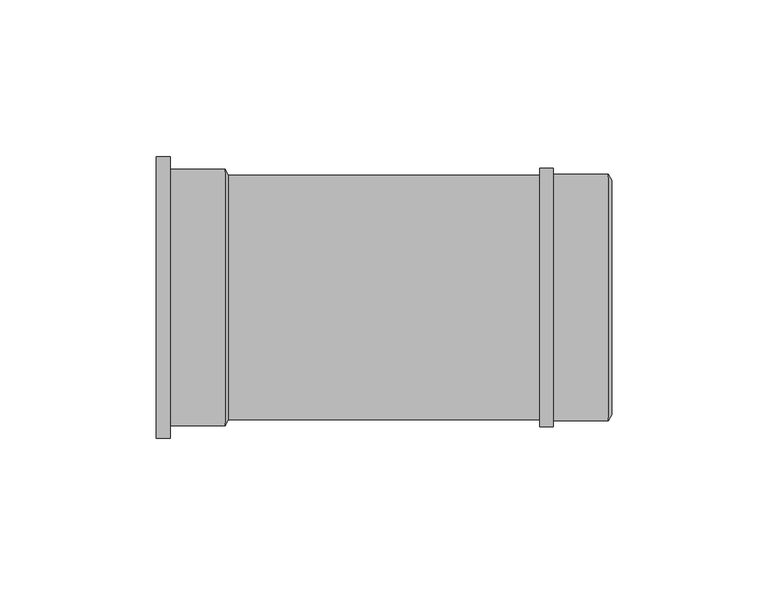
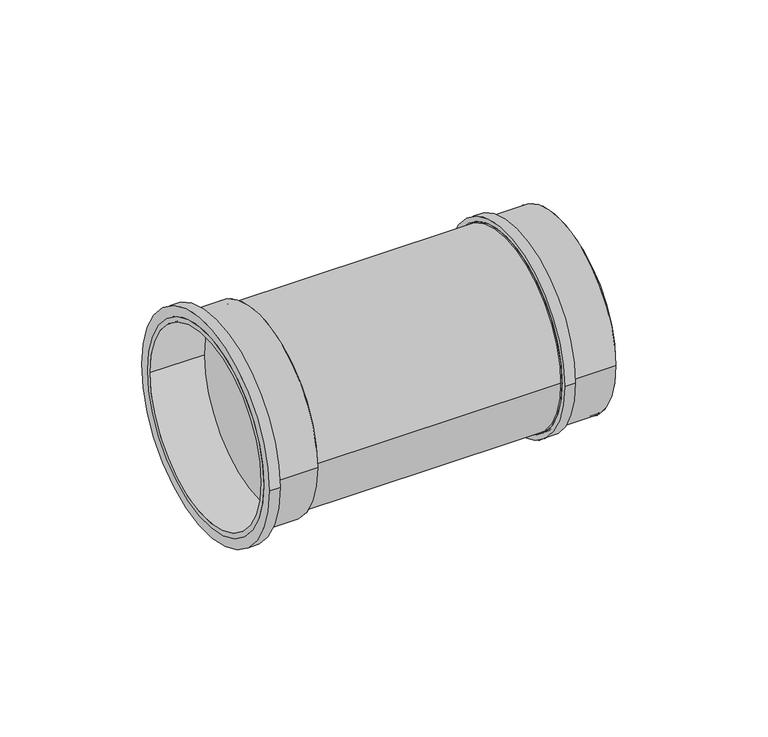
"""IFC4 building model written with IfcOpenShell, lengths in millimetres: pipe fitting geometry, Superdrain SK Connection to HT : Superdrain SK Connection to HT."""

from ifc_helpers import new_model, si_unit, point, frame, origin, origin_2d, place, context, project, spatial, polyline, circle_curve, trimmed, segment, composite_curve, outline, extrude, source, transform, mapped, element, save
from ifc_brep_helpers import plane_surface, revolved_surface, advanced_brep


def pipe_fitting_bae9c459(model_context):
    return source(origin(), model_context, "Body", "SolidModel", [
        extrude(outline(composite_curve([segment(trimmed(circle_curve(origin_2d(), 39.375), [point((-39.375, 0.0))], [point((39.375, 0.0))], False, "CARTESIAN"), True, "CONTINUOUS"), segment(trimmed(circle_curve(origin_2d(), 39.375), [point((39.375, 0.0))], [point((-39.375, 0.0))], False, "CARTESIAN"), True, "CONTINUOUS")], self_intersect=False), holes=[composite_curve([segment(trimmed(circle_curve(origin_2d(), 37.5), [point((-37.5, 0.0))], [point((37.5, 0.0))], True, "CARTESIAN"), True, "CONTINUOUS"), segment(trimmed(circle_curve(origin_2d(), 37.5), [point((37.5, 0.0))], [point((-37.5, 0.0))], True, "CARTESIAN"), True, "CONTINUOUS")], self_intersect=False)]), frame((38.0, 0.0, 0.0), z_axis=(1.0, 0.0, 0.0), x_axis=(0.0, 1.0, 0.0)), (0.0, 0.0, 1.0), 22.0),
        extrude(outline(composite_curve([segment(trimmed(circle_curve(origin_2d(), 41.34375), [point((-41.34375, 0.0))], [point((41.34375, 0.0))], False, "CARTESIAN"), True, "CONTINUOUS"), segment(trimmed(circle_curve(origin_2d(), 41.34375), [point((41.34375, 0.0))], [point((-41.34375, 0.0))], False, "CARTESIAN"), True, "CONTINUOUS")], self_intersect=False), holes=[composite_curve([segment(trimmed(circle_curve(origin_2d(), 37.5), [point((-37.5, 0.0))], [point((37.5, 0.0))], True, "CARTESIAN"), True, "CONTINUOUS"), segment(trimmed(circle_curve(origin_2d(), 37.5), [point((37.5, 0.0))], [point((-37.5, 0.0))], True, "CARTESIAN"), True, "CONTINUOUS")], self_intersect=False)]), frame((38.0, 0.0, 0.0), z_axis=(1.0, 0.0, 0.0), x_axis=(0.0, 1.0, 0.0)), (0.0, 0.0, 1.0), 4.4),
        advanced_brep(
        [(61.0, -37.5, 0.0), (61.0, 37.5, 0.0), (60.0, -39.375, 0.0), (60.0, 39.375, 0.0)],
        [
            (0, 1, circle_curve(frame((61.0, 0.0, 0.0), z_axis=(1.0, 0.0, 0.0), x_axis=(0.0, -1.0, 0.0)), 37.5)),
            (1, 0, circle_curve(frame((61.0, 0.0, 0.0), z_axis=(1.0, 0.0, 0.0), x_axis=(0.0, 1.0, 0.0)), 37.5)),
            (2, 3, circle_curve(frame((60.0, 0.0, 0.0), z_axis=(-1.0, 0.0, 0.0), x_axis=(0.0, 1.0, 0.0)), 39.375)),
            (3, 2, circle_curve(frame((60.0, 0.0, 0.0), z_axis=(-1.0, 0.0, 0.0), x_axis=(0.0, -1.0, 0.0)), 39.375)),
            (3, 1),
            (0, 2),
        ],
        [
            plane_surface(frame((61.0, 0.0, 0.0), z_axis=(1.0, 0.0, 0.0), x_axis=(0.0, 0.0, -1.0))),
            plane_surface(frame((60.0, 0.0, 0.0), z_axis=(-1.0, 0.0, 0.0), x_axis=(0.0, 0.0, -1.0))),
            revolved_surface(polyline([(61.0, -37.5, 0.0), (60.0, -39.375, 0.0)]), (81.0, 0.0, 0.0), (-1.0, 0.0, 0.0)),
            revolved_surface(polyline([(61.0, 37.5, 0.0), (60.0, 39.375, 0.0)]), (81.0, 0.0, 0.0), (-1.0, 0.0, 0.0)),
        ],
        [
            (0, [[1, 2]]),
            (1, [[3, 4]]),
            (2, [[-4, 5, -1, 6]]),
            (3, [[-3, -6, -2, -5]]),
        ],
    ),
        extrude(outline(composite_curve([segment(trimmed(circle_curve(origin_2d(), 40.95), [point((-40.95, 0.0))], [point((40.95, 0.0))], False, "CARTESIAN"), True, "CONTINUOUS"), segment(trimmed(circle_curve(origin_2d(), 40.95), [point((40.95, 0.0))], [point((-40.95, 0.0))], False, "CARTESIAN"), True, "CONTINUOUS")], self_intersect=False), holes=[composite_curve([segment(trimmed(circle_curve(origin_2d(), 39.0), [point((-39.0, 0.0))], [point((39.0, 0.0))], True, "CARTESIAN"), True, "CONTINUOUS"), segment(trimmed(circle_curve(origin_2d(), 39.0), [point((39.0, 0.0))], [point((-39.0, 0.0))], True, "CARTESIAN"), True, "CONTINUOUS")], self_intersect=False)]), frame((-84.4, 0.0, 0.0), z_axis=(1.0, 0.0, 0.0), x_axis=(0.0, 1.0, 0.0)), (0.0, 0.0, 1.0), 22.0),
        extrude(outline(composite_curve([segment(trimmed(circle_curve(origin_2d(), 45.045), [point((-45.045, 0.0))], [point((45.045, 0.0))], False, "CARTESIAN"), True, "CONTINUOUS"), segment(trimmed(circle_curve(origin_2d(), 45.045), [point((45.045, 0.0))], [point((-45.045, 0.0))], False, "CARTESIAN"), True, "CONTINUOUS")], self_intersect=False), holes=[composite_curve([segment(trimmed(circle_curve(origin_2d(), 39.0), [point((-39.0, 0.0))], [point((39.0, 0.0))], True, "CARTESIAN"), True, "CONTINUOUS"), segment(trimmed(circle_curve(origin_2d(), 39.0), [point((39.0, 0.0))], [point((-39.0, 0.0))], True, "CARTESIAN"), True, "CONTINUOUS")], self_intersect=False)]), frame((-84.4, 0.0, 0.0), z_axis=(1.0, 0.0, 0.0), x_axis=(0.0, 1.0, 0.0)), (0.0, 0.0, 1.0), 4.4),
        advanced_brep(
        [(-61.4, -39.0, 0.0), (-61.4, 39.0, 0.0), (-62.4, -40.95, 0.0), (-62.4, 40.95, 0.0)],
        [
            (0, 1, circle_curve(frame((-61.4, 0.0, 0.0), z_axis=(1.0, 0.0, 0.0), x_axis=(0.0, -1.0, 0.0)), 39.0)),
            (1, 0, circle_curve(frame((-61.4, 0.0, 0.0), z_axis=(1.0, 0.0, 0.0), x_axis=(0.0, 1.0, 0.0)), 39.0)),
            (2, 3, circle_curve(frame((-62.4, 0.0, 0.0), z_axis=(-1.0, 0.0, 0.0), x_axis=(0.0, 1.0, 0.0)), 40.95)),
            (3, 2, circle_curve(frame((-62.4, 0.0, 0.0), z_axis=(-1.0, 0.0, 0.0), x_axis=(0.0, -1.0, 0.0)), 40.95)),
            (3, 1),
            (0, 2),
        ],
        [
            plane_surface(frame((-61.4, 0.0, 0.0), z_axis=(1.0, 0.0, 0.0), x_axis=(0.0, 0.0, -1.0))),
            plane_surface(frame((-62.4, 0.0, 0.0), z_axis=(-1.0, 0.0, 0.0), x_axis=(0.0, 0.0, -1.0))),
            revolved_surface(polyline([(-61.4, -39.0, 0.0), (-62.4, -40.95, 0.0)]), (-41.4, 0.0, 0.0), (-1.0, 0.0, 0.0)),
            revolved_surface(polyline([(-61.4, 39.0, 0.0), (-62.4, 40.95, 0.0)]), (-41.4, 0.0, 0.0), (-1.0, 0.0, 0.0)),
        ],
        [
            (0, [[1, 2]]),
            (1, [[3, 4]]),
            (2, [[-4, 5, -1, 6]]),
            (3, [[-3, -6, -2, -5]]),
        ],
    ),
        extrude(outline(composite_curve([segment(trimmed(circle_curve(origin_2d(), 39.0), [point((-39.0, 0.0))], [point((39.0, 0.0))], False, "CARTESIAN"), True, "CONTINUOUS"), segment(trimmed(circle_curve(origin_2d(), 39.0), [point((39.0, 0.0))], [point((-39.0, 0.0))], False, "CARTESIAN"), True, "CONTINUOUS")], self_intersect=False)), frame((-62.4, 0.0, 0.0), z_axis=(1.0, 0.0, 0.0), x_axis=(0.0, 1.0, 0.0)), (0.0, 0.0, 1.0), 122.4),
    ])


if __name__ == "__main__":
    model = new_model("IFC4")
    model_context = context("Model", 3, world=origin())
    ifc_project = project(units=[si_unit("LENGTHUNIT", "METRE", prefix="MILLI")], contexts=[model_context])
    site = spatial("IfcSite", under=ifc_project)
    building = spatial("IfcBuilding", under=site)
    placement = place(None, origin())
    pipe_fitting_shape = pipe_fitting_bae9c459(model_context)
    element("IfcPipeFitting", 1, ObjectType="Superdrain SK Connection to HT : Superdrain SK Connection to HT", at=placement, inside=building, context=model_context, shape_type="MappedRepresentation", body=[
        mapped(pipe_fitting_shape, transform((0.0, 0.0, 0.0), x_axis=(1.0, 0.0, 0.0), y_axis=(0.0, 1.0, 0.0), z_axis=(0.0, 0.0, 1.0))),
    ])
    save(model, "model.ifc")
